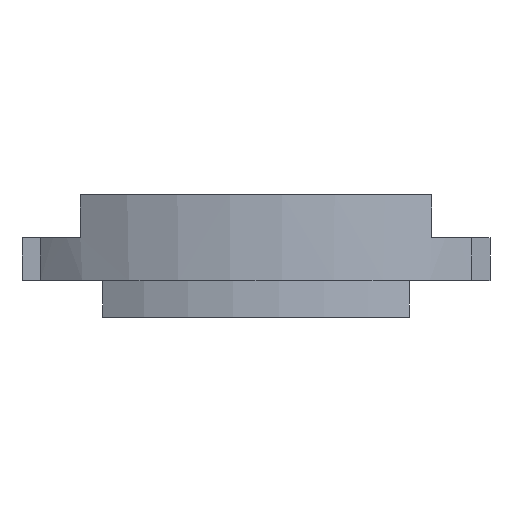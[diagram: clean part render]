
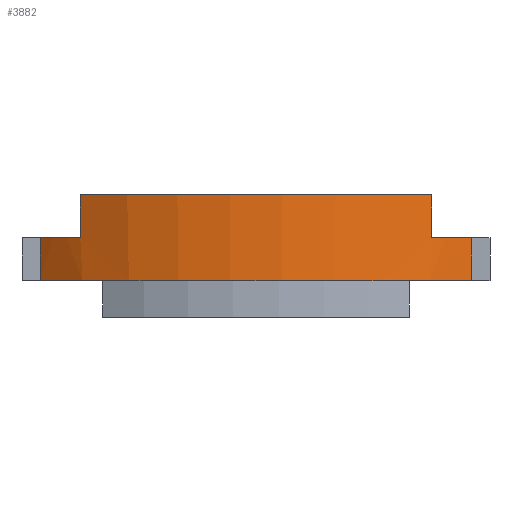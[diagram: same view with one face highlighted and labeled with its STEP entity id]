
A CAD part, front view. The second image highlights one B-rep face of the part: STEP entity #3882.
In plain terms, the highlighted cylindrical face has radius 27 mm (diameter 54 mm), a partial arc.
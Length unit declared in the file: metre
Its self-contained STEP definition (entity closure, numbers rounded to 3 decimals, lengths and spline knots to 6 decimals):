
#40=CYLINDRICAL_SURFACE('',#4165,0.027);
#79=CIRCLE('',#4020,0.027);
#150=CIRCLE('',#4166,0.027);
#151=CIRCLE('',#4167,0.027);
#152=CIRCLE('',#4168,0.027);
#672=ORIENTED_EDGE('',*,*,#1694,.F.);
#673=ORIENTED_EDGE('',*,*,#1695,.F.);
#674=ORIENTED_EDGE('',*,*,#1696,.T.);
#675=ORIENTED_EDGE('',*,*,#1697,.T.);
#676=ORIENTED_EDGE('',*,*,#1698,.F.);
#677=ORIENTED_EDGE('',*,*,#1692,.T.);
#678=ORIENTED_EDGE('',*,*,#1370,.T.);
#679=ORIENTED_EDGE('',*,*,#1699,.F.);
#1370=EDGE_CURVE('',#1955,#1954,#79,.T.);
#1692=EDGE_CURVE('',#2203,#1955,#2591,.T.);
#1694=EDGE_CURVE('',#2204,#2205,#150,.T.);
#1695=EDGE_CURVE('',#2206,#2204,#2593,.T.);
#1696=EDGE_CURVE('',#2206,#2207,#151,.T.);
#1697=EDGE_CURVE('',#2207,#2208,#2594,.T.);
#1698=EDGE_CURVE('',#2203,#2208,#152,.T.);
#1699=EDGE_CURVE('',#2205,#1954,#2595,.T.);
#1954=VERTEX_POINT('',#5442);
#1955=VERTEX_POINT('',#5444);
#2203=VERTEX_POINT('',#6100);
#2204=VERTEX_POINT('',#6104);
#2205=VERTEX_POINT('',#6105);
#2206=VERTEX_POINT('',#6107);
#2207=VERTEX_POINT('',#6109);
#2208=VERTEX_POINT('',#6111);
#2591=LINE('',#6099,#3045);
#2593=LINE('',#6106,#3047);
#2594=LINE('',#6110,#3048);
#2595=LINE('',#6113,#3049);
#3045=VECTOR('',#4882,1.);
#3047=VECTOR('',#4888,1.);
#3048=VECTOR('',#4891,1.);
#3049=VECTOR('',#4894,1.);
#3331=EDGE_LOOP('',(#672,#673,#674,#675,#676,#677,#678,#679));
#3539=FACE_BOUND('',#3331,.T.);
#3882=ADVANCED_FACE('',(#3539),#40,.T.);
#4020=AXIS2_PLACEMENT_3D('',#5443,#4345,#4346);
#4165=AXIS2_PLACEMENT_3D('',#6102,#4884,#4885);
#4166=AXIS2_PLACEMENT_3D('',#6103,#4886,#4887);
#4167=AXIS2_PLACEMENT_3D('',#6108,#4889,#4890);
#4168=AXIS2_PLACEMENT_3D('',#6112,#4892,#4893);
#4345=DIRECTION('',(0.,0.,1.));
#4346=DIRECTION('',(0.,-1.,0.));
#4882=DIRECTION('',(0.,0.,-1.));
#4884=DIRECTION('',(0.,0.,-1.));
#4885=DIRECTION('',(-1.,0.,0.));
#4886=DIRECTION('',(0.,0.,1.));
#4887=DIRECTION('',(0.,-1.,0.));
#4888=DIRECTION('',(0.,0.,-1.));
#4889=DIRECTION('',(0.,0.,-1.));
#4890=DIRECTION('',(0.,-1.,0.));
#4891=DIRECTION('',(0.,0.,-1.));
#4892=DIRECTION('',(0.,0.,1.));
#4893=DIRECTION('',(0.,-1.,0.));
#4894=DIRECTION('',(0.,0.,-1.));
#5442=CARTESIAN_POINT('',(0.0176,-0.022975,0.));
#5443=CARTESIAN_POINT('',(0.,-0.0025,0.));
#5444=CARTESIAN_POINT('',(-0.0176,-0.022975,0.));
#6099=CARTESIAN_POINT('',(-0.0176,-0.022975,0.0035));
#6100=CARTESIAN_POINT('',(-0.0176,-0.022975,0.0035));
#6102=CARTESIAN_POINT('',(0.,-0.0025,0.0035));
#6103=CARTESIAN_POINT('',(0.,-0.0025,0.0035));
#6104=CARTESIAN_POINT('',(0.014344,-0.025375,0.0035));
#6105=CARTESIAN_POINT('',(0.0176,-0.022975,0.0035));
#6106=CARTESIAN_POINT('',(0.014344,-0.025375,0.007));
#6107=CARTESIAN_POINT('',(0.014344,-0.025375,0.007));
#6108=CARTESIAN_POINT('',(0.,-0.0025,0.007));
#6109=CARTESIAN_POINT('',(-0.014344,-0.025375,0.007));
#6110=CARTESIAN_POINT('',(-0.014344,-0.025375,0.007));
#6111=CARTESIAN_POINT('',(-0.014344,-0.025375,0.0035));
#6112=CARTESIAN_POINT('',(0.,-0.0025,0.0035));
#6113=CARTESIAN_POINT('',(0.0176,-0.022975,0.0035));
